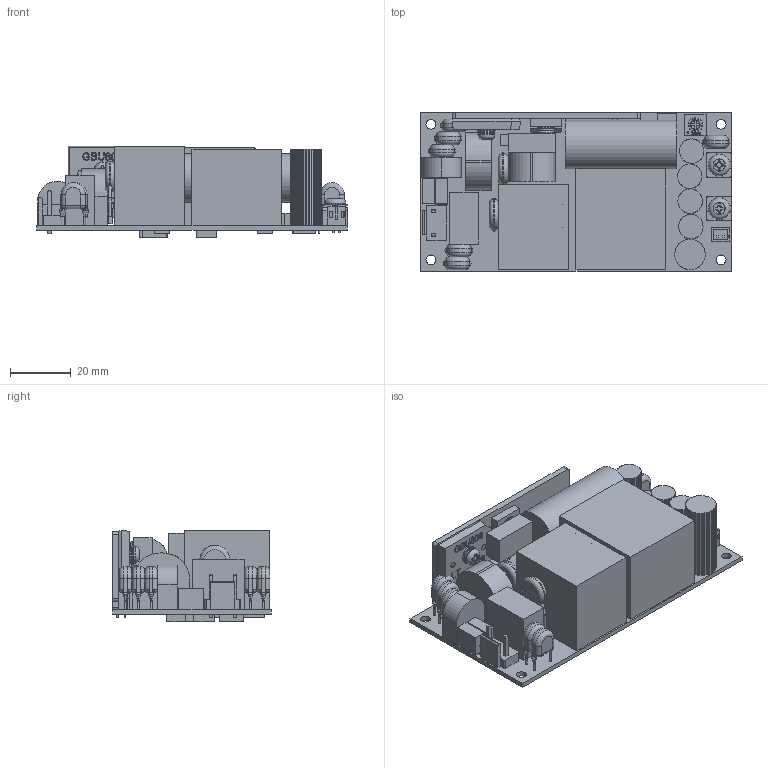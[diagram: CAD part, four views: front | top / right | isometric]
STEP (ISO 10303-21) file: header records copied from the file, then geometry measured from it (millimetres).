
FILE_DESCRIPTION(/* description */ (''),/* implementation_level */ '2;1');
FILE_NAME(/* name */ 'D:\Inventor\ARF240\ARF240O.stp',/* time_stamp */ '2020-06-02T14:39:01+08:00',/* author */ ('peter'),/* organization */ (''),/* preprocessor_version */ 'ST-DEVELOPER v15.2',/* originating_system */ 'Autodesk Inventor 2014',/* authorisation */ '');
FILE_SCHEMA (('AUTOMOTIVE_DESIGN { 1 0 10303 214 3 1 1 }'));
Length unit declared in the file: millimetre
Products named in the file (15): PCB; 2S+1 PIN; PCB-10AM4; PCB-10BM4; PCB-10M4.ipt; R378ARF24001; BD1; TO-220FP; SCREW CH_W  M3_6mm; X1; NTC1 _ 10mm; VR; Y - C; FAN CONNECT 2.0mm; ARF240O
Bounding box: 101.9 x 52.1 x 30.1 mm (x, y, z)
Volume: 84489 mm3; surface area: 37096.6 mm2
Topology: 26 solids, 28 shells, 1680 faces, 4584 edges, 3002 vertices
Faces by surface type: plane 1180, bspline 247, cylinder 184, cone 35, torus 34
Full cylindrical faces by diameter (mm): 0.051 x2, 0.45 x3, 0.5 x1, 0.6 x12, 0.8 x4, 1.85 x2, 2.5 x2, 3 x4, 3.1 x2, 3.2 x5, 3.242 x2, 4 x4, 5.8 x2, 16 x1
Entity records: 45545 total; most frequent: CARTESIAN_POINT 10597, ORIENTED_EDGE 7348, DIRECTION 6059, EDGE_CURVE 3674, LINE 2989, VECTOR 2989, VERTEX_POINT 2454, AXIS2_PLACEMENT_3D 1535
